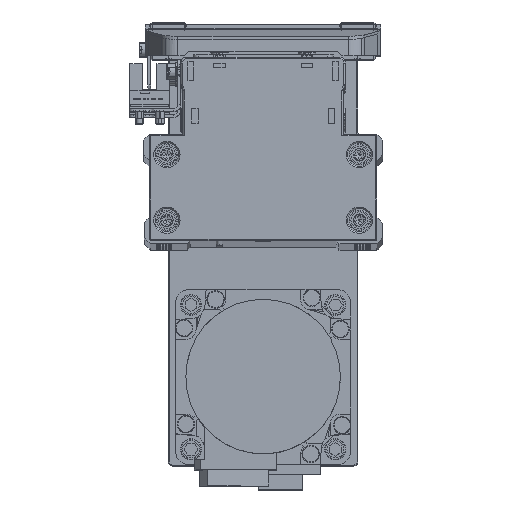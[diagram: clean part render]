
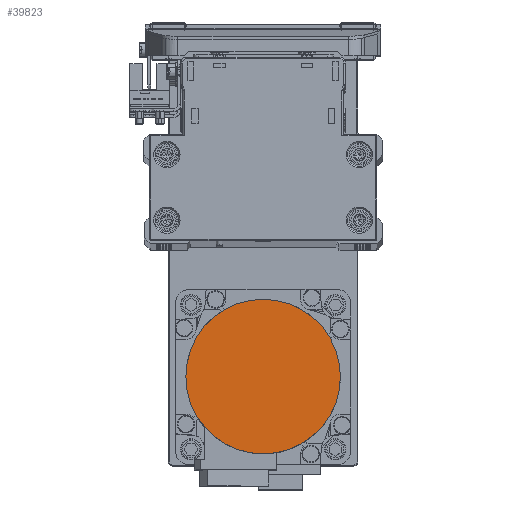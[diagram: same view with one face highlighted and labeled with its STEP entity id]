
A CAD part, top view. The second image highlights one B-rep face of the part: STEP entity #39823.
In plain terms, the highlighted planar face has unit normal (0, 0, 1) as drawn and (0, 0, -1) by its records, which use the part's own axes.
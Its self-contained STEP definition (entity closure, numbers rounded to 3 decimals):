
#245 = AXIS2_PLACEMENT_3D ( 'NONE', #14698, #27583, #40464 ) ;
#1547 = CARTESIAN_POINT ( 'NONE',  ( 0., 0., -109.7 ) ) ;
#1809 = PLANE ( 'NONE',  #245 ) ;
#1838 = AXIS2_PLACEMENT_3D ( 'NONE', #1547, #14433, #27312 ) ;
#2319 = ORIENTED_EDGE ( 'NONE', *, *, #13667, .F. ) ;
#4824 = CARTESIAN_POINT ( 'NONE',  ( 26.5, 0., -109.7 ) ) ;
#6871 = CARTESIAN_POINT ( 'NONE',  ( 0., 0., -109.7 ) ) ;
#7725 = CARTESIAN_POINT ( 'NONE',  ( -26.5, 0., -109.7 ) ) ;
#13394 = AXIS2_PLACEMENT_3D ( 'NONE', #6871, #19752, #32628 ) ;
#13667 = EDGE_CURVE ( 'NONE', #30246, #21776, #20047, .T. ) ;
#14433 = DIRECTION ( 'NONE',  ( 0., 0., 1. ) ) ;
#14698 = CARTESIAN_POINT ( 'NONE',  ( 0., 0., -109.7 ) ) ;
#15896 = EDGE_LOOP ( 'NONE', ( #36242, #2319 ) ) ;
#19752 = DIRECTION ( 'NONE',  ( 0., 0., 1. ) ) ;
#20047 = CIRCLE ( 'NONE', #1838, 26.5 ) ;
#21776 = VERTEX_POINT ( 'NONE', #7725 ) ;
#27312 = DIRECTION ( 'NONE',  ( 1., 0., 0. ) ) ;
#27583 = DIRECTION ( 'NONE',  ( 0., 0., 1. ) ) ;
#30246 = VERTEX_POINT ( 'NONE', #4824 ) ;
#30751 = FACE_OUTER_BOUND ( 'NONE', #15896, .T. ) ;
#31600 = CIRCLE ( 'NONE', #13394, 26.5 ) ;
#32628 = DIRECTION ( 'NONE',  ( -1., 0., 0. ) ) ;
#35404 = EDGE_CURVE ( 'NONE', #21776, #30246, #31600, .T. ) ;
#36242 = ORIENTED_EDGE ( 'NONE', *, *, #35404, .F. ) ;
#39823 = ADVANCED_FACE ( 'NONE', ( #30751 ), #1809, .F. ) ;
#40464 = DIRECTION ( 'NONE',  ( 1., 0., 0. ) ) ;
